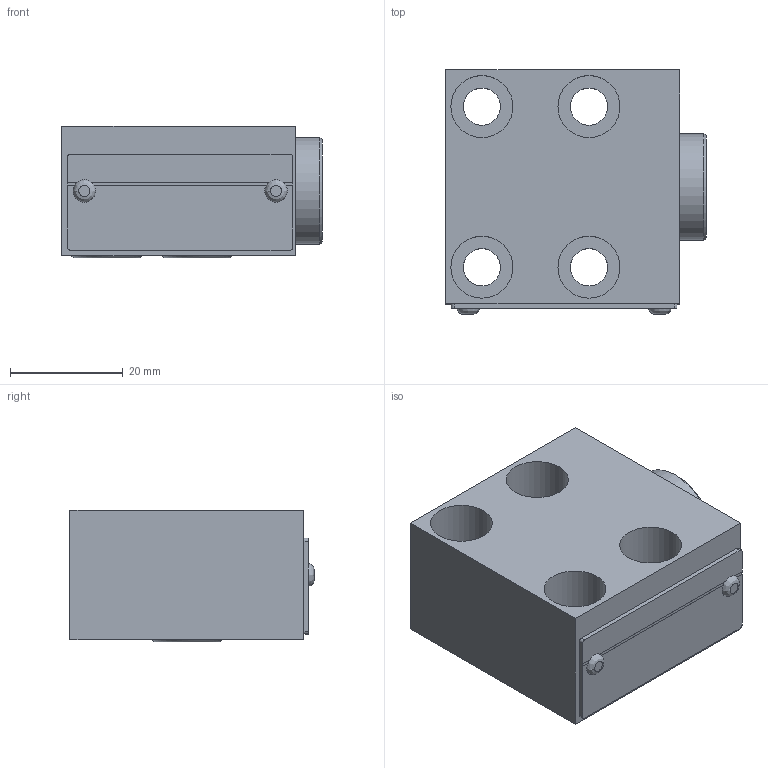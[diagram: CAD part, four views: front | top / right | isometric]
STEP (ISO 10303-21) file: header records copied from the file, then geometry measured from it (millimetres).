
FILE_DESCRIPTION(/* description */ (''),/* implementation_level */ '2;1');
FILE_NAME(/* name */ 'RVP6单向阀.prt.stp',/* time_stamp */ '2022-03-30T19:11:25+08:00',/* author */ (''),/* organization */ (''),/* preprocessor_version */ 'ST-DEVELOPER v16.7',/* originating_system */ 'SIEMENS PLM Software NX 12.0',/* authorisation */ '');
FILE_SCHEMA (('AUTOMOTIVE_DESIGN { 1 0 10303 214 3 1 1 1 }'));
Length unit declared in the file: millimetre
Products named in the file (1): RVP6单向阀
Bounding box: 46.2 x 43.3 x 23.39 mm (x, y, z)
Volume: 36662.8 mm3; surface area: 14064 mm2
Topology: 8 solids, 8 shells, 100 faces, 225 edges, 148 vertices
Faces by surface type: plane 49, cylinder 32, cone 11, bspline 6, torus 2
Full cylindrical faces by diameter (mm): 1.8 x6, 6 x2, 6.6 x4, 11 x4, 11.093 x1, 11.1 x1, 12.2 x2, 16.2 x2, 18.9 x1, 21 x1
Entity records: 3705 total; most frequent: CARTESIAN_POINT 1617, DIRECTION 409, ORIENTED_EDGE 332, AXIS2_PLACEMENT_3D 171, EDGE_CURVE 166, EDGE_LOOP 161, VERTEX_POINT 134, FACE_BOUND 126
